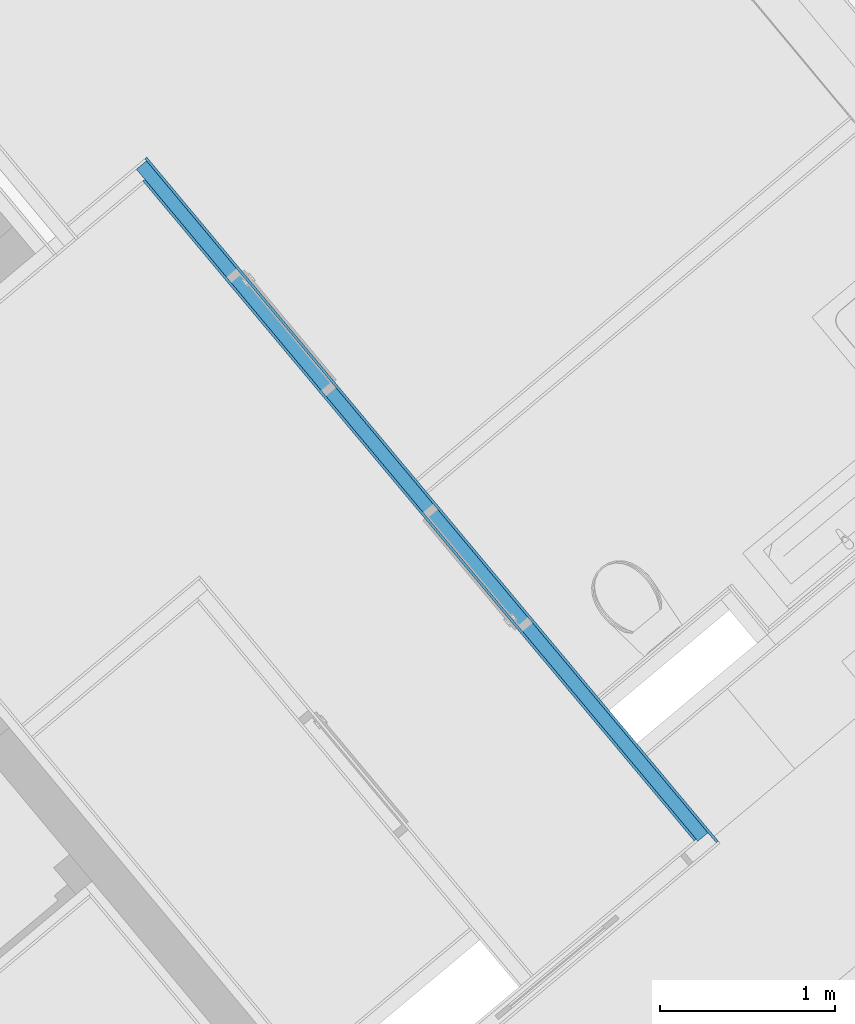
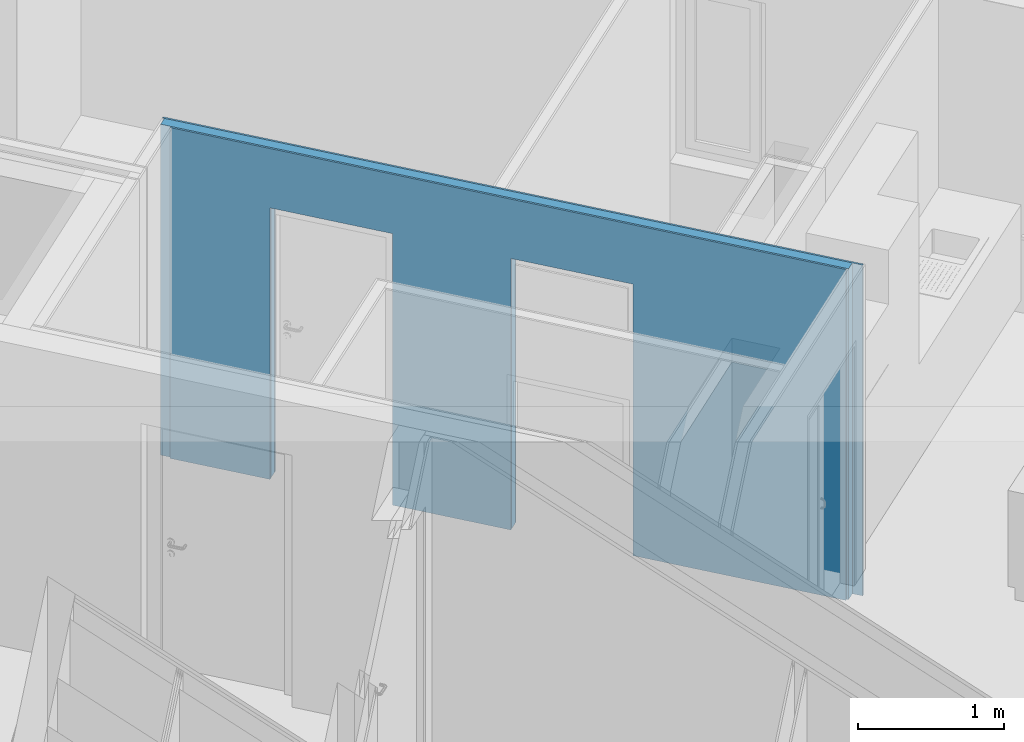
# One storey, part 16 of 75: 3 building element parts, 2 openings, 1 element without a shape of its own.
"""IFC4 building model written with IfcOpenShell, lengths in metres."""

from ifc_helpers import new_model, entity, si_unit, converted_unit, derived_unit, direction, frame, origin_with_axes, place, context, subcontext, project, spatial, polygons, material, type_object, element, aggregate, save


model = new_model("IFC4")

# Units and contexts
model_context = context("Model", 3, precision=1e-05, world=origin_with_axes(), true_north=direction((0.0, 1.0)))
body_context = subcontext(model_context, "Body", "Model", "MODEL_VIEW")
ifc_project = project(units=[si_unit("LENGTHUNIT", "METRE"), si_unit("AREAUNIT", "SQUARE_METRE"), si_unit("VOLUMEUNIT", "CUBIC_METRE"), converted_unit("PLANEANGLEUNIT", "DEGREE", entity("IfcPlaneAngleMeasure", 0.0174532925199), si_unit("PLANEANGLEUNIT", "RADIAN"), dimensions=[0, 0, 0, 0, 0, 0, 0]), converted_unit("TIMEUNIT", "Year", entity("IfcTimeMeasure", 31556926.0), si_unit("TIMEUNIT", "SECOND"), dimensions=[0, 0, 1, 0, 0, 0, 0]), si_unit("MASSUNIT", "GRAM", prefix="KILO"), si_unit("THERMODYNAMICTEMPERATUREUNIT", "DEGREE_CELSIUS"), si_unit("LUMINOUSINTENSITYUNIT", "LUMEN"), si_unit("ENERGYUNIT", "JOULE", prefix="MEGA"), derived_unit("THERMALCONDUCTANCEUNIT", [(si_unit("POWERUNIT", "WATT"), 1), (si_unit("LENGTHUNIT", "METRE"), -1), (si_unit("THERMODYNAMICTEMPERATUREUNIT", "KELVIN"), -1)]), derived_unit("SPECIFICHEATCAPACITYUNIT", [(si_unit("ENERGYUNIT", "JOULE"), 1), (si_unit("MASSUNIT", "GRAM", prefix="KILO"), -1), (si_unit("THERMODYNAMICTEMPERATUREUNIT", "KELVIN"), -1)]), derived_unit("MASSDENSITYUNIT", [(si_unit("MASSUNIT", "GRAM", prefix="KILO"), 1), (si_unit("VOLUMEUNIT", "CUBIC_METRE"), -1)])], contexts=[model_context])

# Site, building, storey
site_placement = place(None, frame((-0.00153261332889, -0.00661245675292, 0.0), z_axis=(0.0, 0.0, 1.0), x_axis=(1.0, 0.0, 0.0)))
site = spatial("IfcSite", under=ifc_project, at=site_placement, Name="Gelände", CompositionType="ELEMENT")
building_placement = place(site_placement, origin_with_axes())
building = spatial("IfcBuilding", under=site, at=building_placement, Name="Gebäude", CompositionType="ELEMENT")
storey_placement = place(building_placement, frame((0.0, 0.0, -0.22), z_axis=(0.0, 0.0, 1.0), x_axis=(1.0, 0.0, 0.0)))
storey = spatial("IfcBuildingStorey", under=building, at=storey_placement, Name="EG", CompositionType="ELEMENT", Elevation=-0.22)

# Wall, openings, building element parts
wall_type = type_object("IfcWallType", Name="IW LB 01 Leichtbautrennwand einfach 10,5 cm 105", PredefinedType="NOTDEFINED")
wall_placement = place(storey_placement, frame((6.82661068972, 22.4478297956, 0.0), z_axis=(0.0, 0.0, 1.0), x_axis=(-0.641209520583, 0.767365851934, 0.0)))
wall = element("IfcWall", 1, at=wall_placement, inside=storey, type_object=wall_type, Name="Wand-012", PredefinedType="NOTDEFINED")
opening_1_placement = place(wall_placement, frame((2.09706783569, 0.0, 0.22), z_axis=(0.0, 0.0, 1.0), x_axis=(1.0, 0.0, 0.0)))
element("IfcOpeningElement", 2, at=opening_1_placement, cuts=wall, Name="Tür-014", context=body_context, identifier="Reference", shape_type="Tessellation", body=[
    polygons([(-0.445, -2.51639218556, 2.045), (-0.445, -2.51639218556, -0.22), (0.445, -2.51639218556, -0.22), (0.445, -2.51639218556, 2.045), (-0.445, 2.62139218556, 2.045), (-0.445, 2.62139218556, -0.22), (0.445, 2.62139218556, -0.22), (0.445, 2.62139218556, 2.045)], [[[1, 2, 3, 4]], [[5, 6, 2, 1]], [[6, 7, 3, 2]], [[7, 8, 4, 3]], [[8, 5, 1, 4]], [[7, 6, 5, 8]]], closed=True),
])
opening_2_placement = place(wall_placement, frame((3.85013716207, 0.0, 0.22), z_axis=(0.0, 0.0, 1.0), x_axis=(1.0, 0.0, 0.0)))
element("IfcOpeningElement", 3, at=opening_2_placement, cuts=wall, Name="Tür-016", context=body_context, identifier="Reference", shape_type="Tessellation", body=[
    polygons([(0.445, 2.62139218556, 2.045), (0.445, 2.62139218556, -0.22), (-0.445, 2.62139218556, -0.22), (-0.445, 2.62139218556, 2.045), (0.445, -2.51639218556, 2.045), (0.445, -2.51639218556, -0.22), (-0.445, -2.51639218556, -0.22), (-0.445, -2.51639218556, 2.045)], [[[1, 2, 3, 4]], [[5, 6, 2, 1]], [[6, 7, 3, 2]], [[7, 8, 4, 3]], [[8, 5, 1, 4]], [[7, 6, 5, 8]]], closed=True),
])
ifc_material_1 = material(Name="Gipskarton")
building_element_part_1_placement = place(wall_placement, origin_with_axes())
building_element_part_1 = element("IfcBuildingElementPart", 4, at=building_element_part_1_placement, material=ifc_material_1, Name="Gipskarton", PredefinedType="NOTDEFINED", context=body_context, shape_type="Tessellation", body=[
    polygons([(4.29513716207, 0.09, 2.265), (4.29513716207, 0.09, 0.22), (4.29513712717, 0.09, 0.0), (5.02214632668, 0.09, 0.0), (5.02214632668, 0.09, 2.76), (0.105056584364, 0.09, 2.76), (0.105056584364, 0.09, 0.0), (1.6520678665, 0.09, 0.0), (1.65206783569, 0.09, 0.22), (1.65206783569, 0.09, 2.265), (2.54206783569, 0.09, 2.265), (2.54206783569, 0.09, 0.22), (2.54206783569, 0.09, 0.0), (3.40513716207, 0.09, 0.0), (3.40513716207, 0.09, 0.22), (3.40513716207, 0.09, 2.265), (4.29513716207, 0.105, 2.265), (4.29513716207, 0.105, 0.22), (4.29513712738, 0.105, 0.0), (5.02214632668, 0.105, 0.0), (5.02214632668, 0.105, 2.76), (0.105066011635, 0.105, 2.76), (0.105066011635, 0.105, 0.0), (1.65206786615, 0.105, 0.0), (1.65206783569, 0.105, 0.22), (1.65206783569, 0.105, 2.265), (2.54206783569, 0.105, 2.265), (2.54206783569, 0.105, 0.22), (2.54206783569, 0.105, 0.0), (3.40513716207, 0.105, 0.0), (3.40513716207, 0.105, 0.22), (3.40513716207, 0.105, 2.265)], [[[1, 2, 3, 4, 5, 6, 7, 8, 9, 10, 11, 12, 13, 14, 15, 16]], [[2, 1, 17, 18]], [[2, 18, 19, 3]], [[20, 4, 3, 19]], [[4, 20, 21, 5]], [[5, 21, 22, 6]], [[23, 7, 6, 22]], [[7, 23, 24, 8]], [[9, 8, 24, 25]], [[9, 25, 26, 10]], [[10, 26, 27, 11]], [[11, 27, 28, 12]], [[28, 29, 13, 12]], [[13, 29, 30, 14]], [[31, 15, 14, 30]], [[16, 15, 31, 32]], [[1, 16, 32, 17]], [[32, 31, 30, 29, 28, 27, 26, 25, 24, 23, 22, 21, 20, 19, 18, 17]]], closed=True),
])
ifc_material_2 = material(Name="Mineralwolle weich")
building_element_part_2_placement = place(wall_placement, origin_with_axes())
building_element_part_2 = element("IfcBuildingElementPart", 5, at=building_element_part_2_placement, material=ifc_material_2, Name="Mineralwolle weich", PredefinedType="NOTDEFINED", context=body_context, shape_type="Tessellation", body=[
    polygons([(4.29513716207, 0.015, 2.265), (4.29513716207, 0.015, 0.22), (4.29513712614, 0.015, 0.0), (5.09714632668, 0.015, 0.0), (5.09714632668, 0.015, 2.76), (0.0900094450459, 0.015, 2.76), (0.0900094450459, 0.015, 0.0), (1.65206786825, 0.015, 0.0), (1.65206783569, 0.015, 0.22), (1.65206783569, 0.015, 2.265), (2.54206783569, 0.015, 2.265), (2.54206783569, 0.015, 0.22), (2.54206783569, 0.015, 0.0), (3.40513716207, 0.015, 0.0), (3.40513716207, 0.015, 0.22), (3.40513716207, 0.015, 2.265), (4.29513716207, 0.09, 2.265), (4.29513716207, 0.09, 0.22), (4.29513712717, 0.09, 0.0), (5.09714632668, 0.09, 0.0), (5.09714632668, 0.09, 2.76), (0.0900565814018, 0.09, 2.76), (0.0900565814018, 0.09, 0.0), (1.6520678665, 0.09, 0.0), (1.65206783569, 0.09, 0.22), (1.65206783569, 0.09, 2.265), (2.54206783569, 0.09, 2.265), (2.54206783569, 0.09, 0.22), (2.54206783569, 0.09, 0.0), (3.40513716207, 0.09, 0.0), (3.40513716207, 0.09, 0.22), (3.40513716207, 0.09, 2.265)], [[[1, 2, 3, 4, 5, 6, 7, 8, 9, 10, 11, 12, 13, 14, 15, 16]], [[2, 1, 17, 18]], [[2, 18, 19, 3]], [[20, 4, 3, 19]], [[4, 20, 21, 5]], [[5, 21, 22, 6]], [[23, 7, 6, 22]], [[7, 23, 24, 8]], [[9, 8, 24, 25]], [[9, 25, 26, 10]], [[10, 26, 27, 11]], [[11, 27, 28, 12]], [[28, 29, 13, 12]], [[13, 29, 30, 14]], [[31, 15, 14, 30]], [[16, 15, 31, 32]], [[1, 16, 32, 17]], [[32, 31, 30, 29, 28, 27, 26, 25, 24, 23, 22, 21, 20, 19, 18, 17]]], closed=True),
])
building_element_part_3_placement = place(wall_placement, origin_with_axes())
building_element_part_3 = element("IfcBuildingElementPart", 6, at=building_element_part_3_placement, material=ifc_material_1, Name="Gipskarton", PredefinedType="NOTDEFINED", context=body_context, shape_type="Tessellation", body=[
    polygons([(4.29513716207, 1.80854442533e-10, 2.265), (4.29513716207, -6.83303724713e-09, 0.22), (4.29513712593, -6.83304079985e-09, 0.0), (5.11214632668, 0.0, 0.0), (5.11214632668, 0.0, 2.76), (0.98984140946, 0.0, 2.76), (0.741612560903, 0.0, 2.76), (0.0150000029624, 0.0, 2.76), (0.0150000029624, 0.0, 0.0), (1.6520678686, 6.71234090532e-09, 0.0), (1.65206783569, 6.71234090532e-09, 0.22), (1.65206783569, 1.80857995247e-10, 2.265), (2.54206783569, 1.80857995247e-10, 2.265), (2.54206783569, -3.01550784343e-10, 0.22), (2.54206783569, -3.01550784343e-10, 0.0), (3.40513716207, 1.80857995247e-10, 0.0), (3.40513716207, 1.80857995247e-10, 0.22), (3.40513716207, 1.80854442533e-10, 2.265), (4.29513716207, 0.015, 2.265), (4.29513716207, 0.015, 0.22), (4.29513712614, 0.015, 0.0), (5.11214632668, 0.015, 0.0), (5.11214632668, 0.015, 2.76), (0.0150094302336, 0.015, 2.76), (0.0150094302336, 0.015, 0.0), (1.65206786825, 0.015, 0.0), (1.65206783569, 0.015, 0.22), (1.65206783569, 0.015, 2.265), (2.54206783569, 0.015, 2.265), (2.54206783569, 0.015, 0.22), (2.54206783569, 0.015, 0.0), (3.40513716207, 0.015, 0.0), (3.40513716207, 0.015, 0.22), (3.40513716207, 0.015, 2.265)], [[[1, 2, 3, 4, 5, 6, 7, 8, 9, 10, 11, 12, 13, 14, 15, 16, 17, 18]], [[2, 1, 19, 20]], [[2, 20, 21, 3]], [[22, 4, 3, 21]], [[4, 22, 23, 5]], [[23, 24, 8, 7, 6, 5]], [[25, 9, 8, 24]], [[9, 25, 26, 10]], [[11, 10, 26, 27]], [[11, 27, 28, 12]], [[12, 28, 29, 13]], [[13, 29, 30, 14]], [[30, 31, 15, 14]], [[15, 31, 32, 16]], [[33, 17, 16, 32]], [[18, 17, 33, 34]], [[1, 18, 34, 19]], [[34, 33, 32, 31, 30, 29, 28, 27, 26, 25, 24, 23, 22, 21, 20, 19]]], closed=True),
])
aggregate(wall, [building_element_part_1, building_element_part_2, building_element_part_3])

save(model, "model.ifc")
